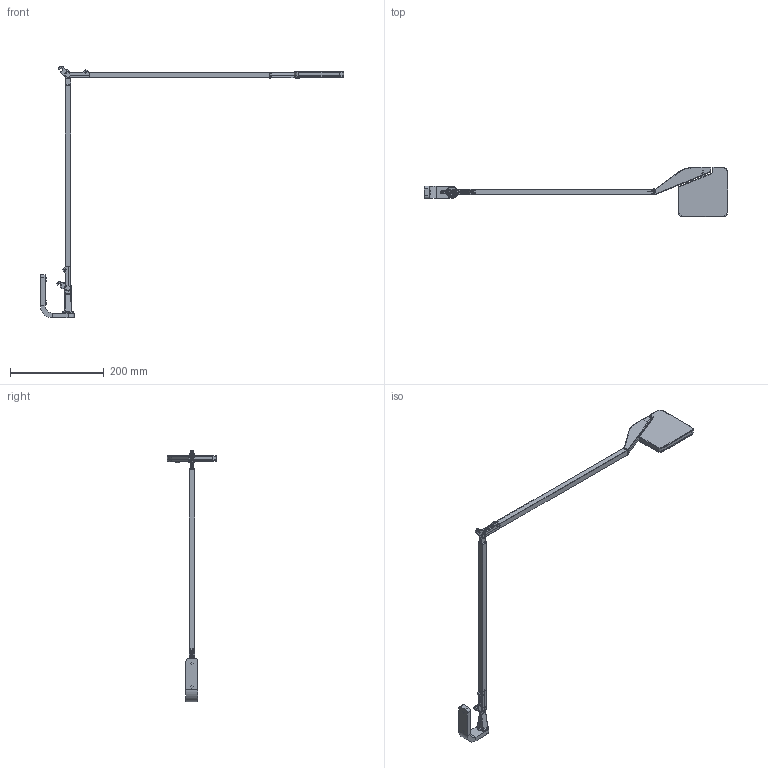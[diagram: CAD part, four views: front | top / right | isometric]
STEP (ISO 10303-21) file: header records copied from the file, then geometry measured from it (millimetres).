
FILE_DESCRIPTION(/* description */ (''),/* implementation_level */ '2;1');
FILE_NAME(/* name */ 'CA077__.000',/* time_stamp */ '2024-09-02T12:07:03+02:00',/* author */ (''),/* organization */ (''),/* preprocessor_version */ 'ST-DEVELOPER v16.5',/* originating_system */ '',/* authorisation */ '');
FILE_SCHEMA (('AUTOMOTIVE_DESIGN'));
Products named in the file (1): Document
Bounding box: 647.3 x 105.43 x 537.37 mm (x, y, z)
Volume: 159318.3 mm3; surface area: 155930.9 mm2
Topology: 34 solids, 41 shells, 2706 faces, 6340 edges, 3837 vertices
Faces by surface type: bspline 1843, plane 863
Entity records: 120904 total; most frequent: CARTESIAN_POINT 82588, ORIENTED_EDGE 12533, EDGE_CURVE 6314, B_SPLINE_CURVE_WITH_KNOTS 4204, VERTEX_POINT 3836, EDGE_LOOP 2929, ADVANCED_FACE 2706, FACE_OUTER_BOUND 2706
